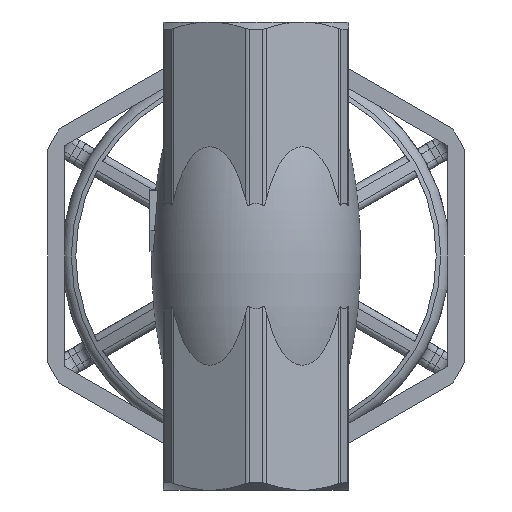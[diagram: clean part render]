
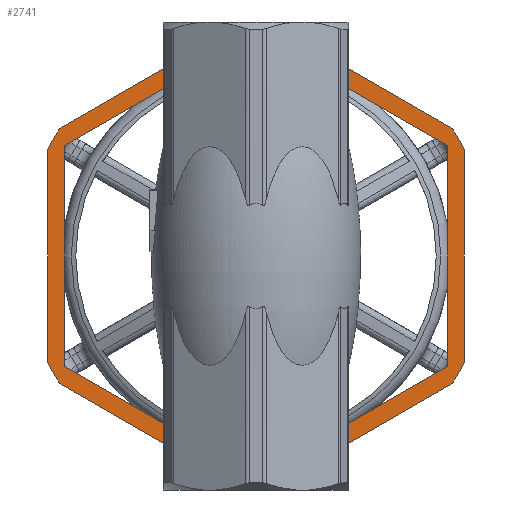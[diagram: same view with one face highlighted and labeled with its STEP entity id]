
A CAD part, front view. The second image highlights one B-rep face of the part: STEP entity #2741.
In plain terms, the highlighted planar face has unit normal (0, -1, 0).
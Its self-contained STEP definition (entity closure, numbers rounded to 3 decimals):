
#2741=ADVANCED_FACE('',(#10272,#10274),#10276,.T.);
#10272=FACE_BOUND('',#10273,.T.);
#10273=EDGE_LOOP('',(#13013,#13014,#13015,#13016,#13017,#13018,#13019,#13020,#13021,
#13022,#13023,#13024));
#10274=FACE_BOUND('',#10275,.T.);
#10275=EDGE_LOOP('',(#13025,#13026,#13027,#13028,#13029,#13030));
#10276=PLANE('',#10277);
#10277=AXIS2_PLACEMENT_3D('',#10278,#10279,#10280);
#10278=CARTESIAN_POINT('',(0.,99.25,-35.));
#10279=DIRECTION('',(0.,-1.,0.));
#10280=DIRECTION('',(0.,0.,-1.));
#13013=ORIENTED_EDGE('',*,*,#14520,.T.);
#13014=ORIENTED_EDGE('',*,*,#14469,.T.);
#13015=ORIENTED_EDGE('',*,*,#14521,.T.);
#13016=ORIENTED_EDGE('',*,*,#14446,.T.);
#13017=ORIENTED_EDGE('',*,*,#14522,.T.);
#13018=ORIENTED_EDGE('',*,*,#14435,.T.);
#13019=ORIENTED_EDGE('',*,*,#14523,.T.);
#13020=ORIENTED_EDGE('',*,*,#14412,.T.);
#13021=ORIENTED_EDGE('',*,*,#14519,.T.);
#13022=ORIENTED_EDGE('',*,*,#14497,.T.);
#13023=ORIENTED_EDGE('',*,*,#14524,.T.);
#13024=ORIENTED_EDGE('',*,*,#14480,.T.);
#13025=ORIENTED_EDGE('',*,*,#14525,.T.);
#13026=ORIENTED_EDGE('',*,*,#14526,.T.);
#13027=ORIENTED_EDGE('',*,*,#14527,.T.);
#13028=ORIENTED_EDGE('',*,*,#14528,.T.);
#13029=ORIENTED_EDGE('',*,*,#14529,.T.);
#13030=ORIENTED_EDGE('',*,*,#14530,.T.);
#14412=EDGE_CURVE('',#16348,#16346,#16349,.T.);
#14435=EDGE_CURVE('',#16384,#16382,#16385,.T.);
#14446=EDGE_CURVE('',#16402,#16400,#16403,.T.);
#14469=EDGE_CURVE('',#16438,#16436,#16439,.T.);
#14480=EDGE_CURVE('',#16456,#16454,#16457,.T.);
#14497=EDGE_CURVE('',#16483,#16481,#16484,.T.);
#14519=EDGE_CURVE('',#16346,#16483,#16514,.T.);
#14520=EDGE_CURVE('',#16454,#16438,#16515,.T.);
#14521=EDGE_CURVE('',#16436,#16402,#16516,.T.);
#14522=EDGE_CURVE('',#16400,#16384,#16517,.T.);
#14523=EDGE_CURVE('',#16382,#16348,#16518,.T.);
#14524=EDGE_CURVE('',#16481,#16456,#16519,.T.);
#14525=EDGE_CURVE('',#16520,#16521,#16522,.F.);
#14526=EDGE_CURVE('',#16521,#16523,#16524,.F.);
#14527=EDGE_CURVE('',#16523,#16525,#16526,.F.);
#14528=EDGE_CURVE('',#16525,#16527,#16528,.F.);
#14529=EDGE_CURVE('',#16527,#16529,#16530,.F.);
#14530=EDGE_CURVE('',#16529,#16520,#16531,.F.);
#16346=VERTEX_POINT('',#28867);
#16348=VERTEX_POINT('',#28871);
#16349=CIRCLE('',#28872,35.);
#16382=VERTEX_POINT('',#29066);
#16384=VERTEX_POINT('',#29070);
#16385=CIRCLE('',#29071,35.);
#16400=VERTEX_POINT('',#29147);
#16402=VERTEX_POINT('',#29151);
#16403=CIRCLE('',#29152,35.);
#16436=VERTEX_POINT('',#29346);
#16438=VERTEX_POINT('',#29350);
#16439=CIRCLE('',#29351,35.);
#16454=VERTEX_POINT('',#29427);
#16456=VERTEX_POINT('',#29431);
#16457=CIRCLE('',#29432,35.);
#16481=VERTEX_POINT('',#29567);
#16483=VERTEX_POINT('',#29571);
#16484=CIRCLE('',#29572,35.);
#16514=LINE('',#29696,#29697);
#16515=LINE('',#29699,#29700);
#16516=LINE('',#29702,#29703);
#16517=LINE('',#29705,#29706);
#16518=LINE('',#29708,#29709);
#16519=LINE('',#29711,#29712);
#16520=VERTEX_POINT('',#29714);
#16521=VERTEX_POINT('',#29715);
#16522=LINE('',#29716,#29717);
#16523=VERTEX_POINT('',#29719);
#16524=LINE('',#29720,#29721);
#16525=VERTEX_POINT('',#29723);
#16526=LINE('',#29724,#29725);
#16527=VERTEX_POINT('',#29727);
#16528=LINE('',#29728,#29729);
#16529=VERTEX_POINT('',#29731);
#16530=LINE('',#29732,#29733);
#16531=LINE('',#29735,#29736);
#28867=CARTESIAN_POINT('',(31.177,99.25,-50.906));
#28871=CARTESIAN_POINT('',(29.363,99.25,-54.047));
#28872=AXIS2_PLACEMENT_3D('',#28873,#28874,#28875);
#28873=CARTESIAN_POINT('',(0.,99.25,-35.));
#28874=DIRECTION('',(0.,-1.,0.));
#28875=DIRECTION('',(0.839,0.,-0.544));
#29066=CARTESIAN_POINT('',(1.813,99.25,-69.953));
#29070=CARTESIAN_POINT('',(-1.813,99.25,-69.953));
#29071=AXIS2_PLACEMENT_3D('',#29072,#29073,#29074);
#29072=CARTESIAN_POINT('',(0.,99.25,-35.));
#29073=DIRECTION('',(0.,-1.,0.));
#29074=DIRECTION('',(-0.052,0.,-0.999));
#29147=CARTESIAN_POINT('',(-29.363,99.25,-54.047));
#29151=CARTESIAN_POINT('',(-31.177,99.25,-50.906));
#29152=AXIS2_PLACEMENT_3D('',#29153,#29154,#29155);
#29153=CARTESIAN_POINT('',(0.,99.25,-35.));
#29154=DIRECTION('',(0.,-1.,0.));
#29155=DIRECTION('',(-0.891,0.,-0.454));
#29346=CARTESIAN_POINT('',(-31.177,99.25,-19.094));
#29350=CARTESIAN_POINT('',(-29.363,99.25,-15.953));
#29351=AXIS2_PLACEMENT_3D('',#29352,#29353,#29354);
#29352=CARTESIAN_POINT('',(0.,99.25,-35.));
#29353=DIRECTION('',(0.,-1.,0.));
#29354=DIRECTION('',(-0.839,0.,0.544));
#29427=CARTESIAN_POINT('',(-1.813,99.25,-0.047));
#29431=CARTESIAN_POINT('',(1.813,99.25,-0.047));
#29432=AXIS2_PLACEMENT_3D('',#29433,#29434,#29435);
#29433=CARTESIAN_POINT('',(0.,99.25,-35.));
#29434=DIRECTION('',(0.,-1.,0.));
#29435=DIRECTION('',(0.052,0.,0.999));
#29567=CARTESIAN_POINT('',(29.363,99.25,-15.953));
#29571=CARTESIAN_POINT('',(31.177,99.25,-19.094));
#29572=AXIS2_PLACEMENT_3D('',#29573,#29574,#29575);
#29573=CARTESIAN_POINT('',(0.,99.25,-35.));
#29574=DIRECTION('',(0.,-1.,0.));
#29575=DIRECTION('',(0.891,0.,0.454));
#29696=CARTESIAN_POINT('',(31.177,99.25,-50.906));
#29697=VECTOR('',#29698,1.);
#29698=DIRECTION('',(0.,0.,1.));
#29699=CARTESIAN_POINT('',(-1.813,99.25,-0.047));
#29700=VECTOR('',#29701,1.);
#29701=DIRECTION('',(-0.866,0.,-0.5));
#29702=CARTESIAN_POINT('',(-31.177,99.25,-19.094));
#29703=VECTOR('',#29704,1.);
#29704=DIRECTION('',(0.,0.,-1.));
#29705=CARTESIAN_POINT('',(-29.363,99.25,-54.047));
#29706=VECTOR('',#29707,1.);
#29707=DIRECTION('',(0.866,0.,-0.5));
#29708=CARTESIAN_POINT('',(1.813,99.25,-69.953));
#29709=VECTOR('',#29710,1.);
#29710=DIRECTION('',(0.866,0.,0.5));
#29711=CARTESIAN_POINT('',(29.363,99.25,-15.953));
#29712=VECTOR('',#29713,1.);
#29713=DIRECTION('',(-0.866,0.,0.5));
#29714=CARTESIAN_POINT('',(-28.579,99.25,-51.5));
#29715=CARTESIAN_POINT('',(-28.579,99.25,-18.5));
#29716=CARTESIAN_POINT('',(-28.579,99.25,-18.5));
#29717=VECTOR('',#29718,1.);
#29718=DIRECTION('',(0.,0.,-1.));
#29719=CARTESIAN_POINT('',(0.,99.25,-2.));
#29720=CARTESIAN_POINT('',(0.,99.25,-2.));
#29721=VECTOR('',#29722,1.);
#29722=DIRECTION('',(-0.866,0.,-0.5));
#29723=CARTESIAN_POINT('',(28.579,99.25,-18.5));
#29724=CARTESIAN_POINT('',(28.579,99.25,-18.5));
#29725=VECTOR('',#29726,1.);
#29726=DIRECTION('',(-0.866,0.,0.5));
#29727=CARTESIAN_POINT('',(28.579,99.25,-51.5));
#29728=CARTESIAN_POINT('',(28.579,99.25,-51.5));
#29729=VECTOR('',#29730,1.);
#29730=DIRECTION('',(0.,0.,1.));
#29731=CARTESIAN_POINT('',(0.,99.25,-68.));
#29732=CARTESIAN_POINT('',(0.,99.25,-68.));
#29733=VECTOR('',#29734,1.);
#29734=DIRECTION('',(0.866,0.,0.5));
#29735=CARTESIAN_POINT('',(-28.579,99.25,-51.5));
#29736=VECTOR('',#29737,1.);
#29737=DIRECTION('',(0.866,0.,-0.5));
